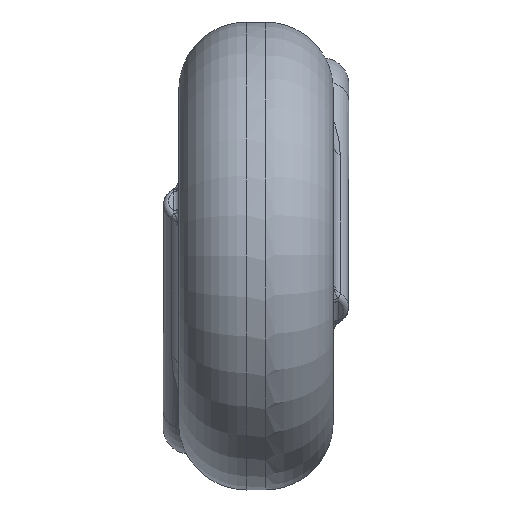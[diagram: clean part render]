
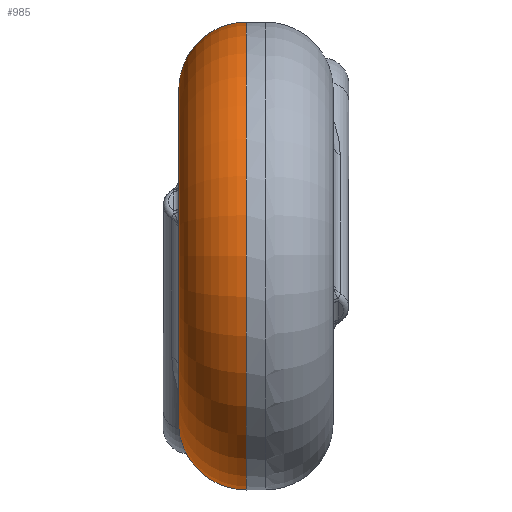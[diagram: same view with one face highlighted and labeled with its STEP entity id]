
A CAD part, left-side view. The second image highlights one B-rep face of the part: STEP entity #985.
In plain terms, the highlighted toroidal (fillet/blend) face has major radius 6.15 mm and minor radius 2.5 mm.
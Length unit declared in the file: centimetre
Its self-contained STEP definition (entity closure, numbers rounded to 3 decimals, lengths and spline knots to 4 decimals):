
#746=CARTESIAN_POINT('',(0.4564,0.49,-0.4123));
#747=VERTEX_POINT('',#746);
#863=CARTESIAN_POINT('',(0.5899,0.49,-0.174));
#864=VERTEX_POINT('',#863);
#872=CARTESIAN_POINT('',(0.5899,0.49,-0.174));
#873=CARTESIAN_POINT('',(0.6043,0.49,-0.1926));
#874=CARTESIAN_POINT('',(0.637,0.4853,-0.2246));
#875=CARTESIAN_POINT('',(0.708,0.4543,-0.2671));
#876=CARTESIAN_POINT('',(0.764,0.3915,-0.3029));
#877=CARTESIAN_POINT('',(0.7729,0.3201,-0.3637));
#878=CARTESIAN_POINT('',(0.7535,0.2772,-0.4224));
#879=CARTESIAN_POINT('',(0.7137,0.2581,-0.4896));
#880=CARTESIAN_POINT('',(0.6646,0.27,-0.5532));
#881=CARTESIAN_POINT('',(0.6161,0.3121,-0.5956));
#882=CARTESIAN_POINT('',(0.5766,0.3699,-0.5999));
#883=CARTESIAN_POINT('',(0.5476,0.422,-0.5701));
#884=CARTESIAN_POINT('',(0.5231,0.4604,-0.5215));
#885=CARTESIAN_POINT('',(0.4965,0.4842,-0.4644));
#886=CARTESIAN_POINT('',(0.4715,0.49,-0.4279));
#887=CARTESIAN_POINT('',(0.4564,0.49,-0.4123));
#888=B_SPLINE_CURVE_WITH_KNOTS('',3,(#872,#873,#874,#875,#876,#877,#878,#879,#880,#881,#882,#883,#884,#885,#886,#887),.UNSPECIFIED.,.F.,.U.,(4,1,1,1,1,1,1,1,1,1,1,1,1,4),(-1.2118,-1.1252,-1.0387,-0.8656,-0.779,-0.6924,-0.6059,-0.5193,-0.4328,-0.3462,-0.2597,-0.1731,-0.0866,0.),.UNSPECIFIED.);
#889=EDGE_CURVE('',#864,#747,#888,.T.);
#959=CARTESIAN_POINT('',(0.0,0.24,0.0));
#960=DIRECTION('',(0.0,1.0,0.0));
#961=DIRECTION('',(1.0,0.0,0.0));
#962=AXIS2_PLACEMENT_3D('',#959,#960,#961);
#963=TOROIDAL_SURFACE('',#962,0.615,0.25);
#964=CARTESIAN_POINT('',(0.865,0.24,0.));
#965=VERTEX_POINT('',#964);
#966=CARTESIAN_POINT('',(0.0,0.24,0.0));
#967=DIRECTION('',(0.0,1.0,0.0));
#968=DIRECTION('',(-1.0,0.0,0.0));
#969=AXIS2_PLACEMENT_3D('',#966,#967,#968);
#970=CIRCLE('',#969,0.865);
#971=EDGE_CURVE('',#965,#965,#970,.T.);
#972=ORIENTED_EDGE('',*,*,#971,.T.);
#973=EDGE_LOOP('',(#972));
#974=FACE_OUTER_BOUND('',#973,.T.);
#975=ORIENTED_EDGE('',*,*,#889,.F.);
#976=CARTESIAN_POINT('',(0.0,0.49,0.0));
#977=DIRECTION('',(0.0,-1.0,0.0));
#978=DIRECTION('',(-1.0,0.0,0.0));
#979=AXIS2_PLACEMENT_3D('',#976,#977,#978);
#980=CIRCLE('',#979,0.615);
#981=EDGE_CURVE('',#864,#747,#980,.T.);
#982=ORIENTED_EDGE('',*,*,#981,.T.);
#983=EDGE_LOOP('',(#975,#982));
#984=FACE_BOUND('',#983,.T.);
#985=ADVANCED_FACE('',(#974,#984),#963,.T.);
